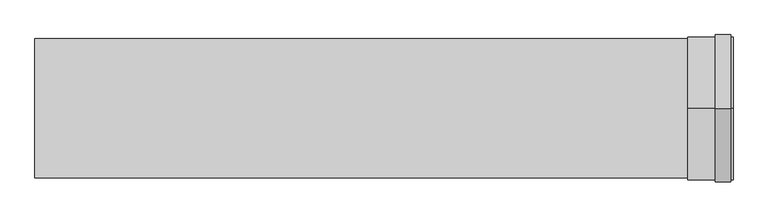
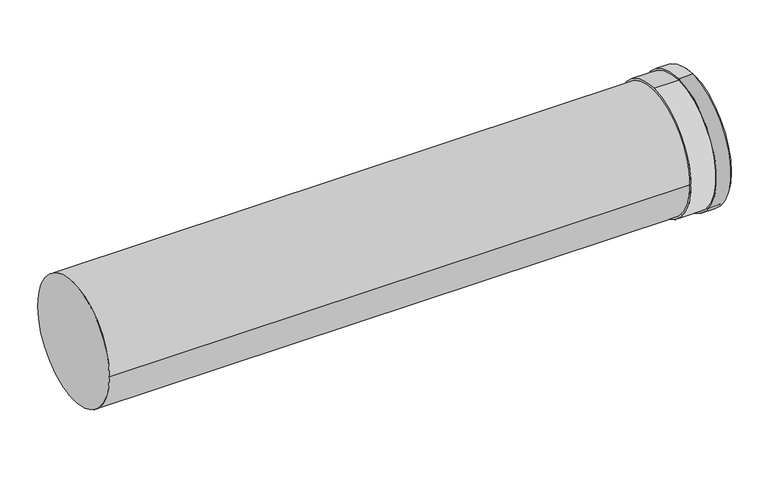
"""IFC4 building model written with IfcOpenShell, lengths in millimetres: duct fitting geometry, RSFen_DUF_UN_Twinline Extension_M&G : ø130-150-200."""

from ifc_helpers import new_model, si_unit, point, frame, origin, origin_2d, place, context, project, spatial, polyline, circle_curve, trimmed, segment, composite_curve, outline, extrude, source, transform, mapped, element, save
from ifc_brep_helpers import plane_surface, cylinder_surface, revolved_surface, advanced_brep


def duct_fitting_6e9e7a38(model_context):
    return source(origin(), model_context, "Body", "SolidModel", [
        extrude(outline(composite_curve([segment(trimmed(circle_curve(origin_2d(), 106.0), [point((0.0, 106.0))], [point((0.0, -106.0))], False, "CARTESIAN"), True, "CONTINUOUS"), segment(trimmed(circle_curve(origin_2d(), 106.0), [point((0.0, -106.0))], [point((0.0, 106.0))], False, "CARTESIAN"), True, "CONTINUOUS")], self_intersect=False), holes=[composite_curve([segment(trimmed(circle_curve(origin_2d(), 103.0), [point((0.0, -103.0))], [point((0.0, 103.0))], True, "CARTESIAN"), True, "CONTINUOUS"), segment(trimmed(circle_curve(origin_2d(), 103.0), [point((0.0, 103.0))], [point((0.0, -103.0))], True, "CARTESIAN"), True, "CONTINUOUS")], self_intersect=False)]), frame((974.5, 0.0, 0.0), z_axis=(1.0, 0.0, 0.0), x_axis=(0.0, 1.0, 0.0)), (0.0, 0.0, 1.0), 22.5),
        advanced_brep(
        [(1000.0, 0.0, -103.0), (1000.0, 0.0, 103.0), (1000.0, 0.0, 99.0), (1000.0, 0.0, -99.0), (935.0, 0.0, -103.0), (935.0, 0.0, 103.0), (940.0, 0.0, -99.0), (940.0, 0.0, 99.0)],
        [
            (0, 1, circle_curve(frame((1000.0, 0.0, 0.0), z_axis=(1.0, 0.0, 0.0), x_axis=(0.0, 0.0, 1.0)), 103.0)),
            (1, 0, circle_curve(frame((1000.0, 0.0, 0.0), z_axis=(1.0, 0.0, 0.0), x_axis=(0.0, 0.0, 1.0)), 103.0)),
            (2, 3, circle_curve(frame((1000.0, 0.0, 0.0), z_axis=(-1.0, 0.0, 0.0), x_axis=(0.0, 0.0, 1.0)), 99.0)),
            (3, 2, circle_curve(frame((1000.0, 0.0, 0.0), z_axis=(-1.0, 0.0, 0.0), x_axis=(0.0, 0.0, 1.0)), 99.0)),
            (4, 5, circle_curve(frame((935.0, 0.0, 0.0), z_axis=(-1.0, 0.0, 0.0), x_axis=(0.0, 0.0, 1.0)), 103.0)),
            (5, 4, circle_curve(frame((935.0, 0.0, 0.0), z_axis=(-1.0, 0.0, 0.0), x_axis=(0.0, 0.0, 1.0)), 103.0)),
            (1, 5),
            (4, 0),
            (6, 7, circle_curve(frame((940.0, 0.0, 0.0), z_axis=(1.0, 0.0, 0.0), x_axis=(0.0, 0.0, 1.0)), 99.0)),
            (7, 6, circle_curve(frame((940.0, 0.0, 0.0), z_axis=(1.0, 0.0, 0.0), x_axis=(0.0, 0.0, 1.0)), 99.0)),
            (7, 2),
            (3, 6),
        ],
        [
            plane_surface(frame((1000.0, 0.0, 103.0), z_axis=(1.0, 0.0, 0.0), x_axis=(0.0, 1.0, 0.0))),
            plane_surface(frame((935.0, 0.0, 103.0), z_axis=(-1.0, 0.0, 0.0), x_axis=(0.0, -1.0, 0.0))),
            cylinder_surface(frame((935.0, 0.0, 0.0), z_axis=(1.0, 0.0, 0.0), x_axis=(0.0, 0.0, 1.0)), 103.0),
            plane_surface(frame((940.0, 0.0, 99.0), z_axis=(1.0, 0.0, 0.0), x_axis=(0.0, -1.0, 0.0))),
            revolved_surface(polyline([(1000.0, 0.0, 99.0), (940.0, 0.0, 99.0)]), (940.0, 0.0, 0.0), (1.0, 0.0, 0.0)),
        ],
        [
            (0, [[1, 2], [3, 4]]),
            (1, [[5, 6]]),
            (2, [[7, -5, 8, -2]]),
            (2, [[-8, -6, -7, -1]]),
            (3, [[9, 10]]),
            (4, [[11, -4, 12, -10]]),
            (4, [[-12, -3, -11, -9]]),
        ],
    ),
        extrude(outline(composite_curve([segment(trimmed(circle_curve(origin_2d(), 100.0), [point((-100.0, 0.0))], [point((100.0, 0.0))], False, "CARTESIAN"), True, "CONTINUOUS"), segment(trimmed(circle_curve(origin_2d(), 100.0), [point((100.0, 0.0))], [point((-100.0, 0.0))], False, "CARTESIAN"), True, "CONTINUOUS")], self_intersect=False)), frame((-2.39e-05, 0.0, 0.0), z_axis=(1.0, 0.0, 0.0), x_axis=(0.0, 1.0, 0.0)), (0.0, 0.0, 1.0), 940.0),
    ])


if __name__ == "__main__":
    model = new_model("IFC4")
    model_context = context("Model", 3, world=origin())
    ifc_project = project(units=[si_unit("LENGTHUNIT", "METRE", prefix="MILLI")], contexts=[model_context])
    site = spatial("IfcSite", under=ifc_project)
    building = spatial("IfcBuilding", under=site)
    placement = place(None, origin())
    duct_fitting_shape = duct_fitting_6e9e7a38(model_context)
    element("IfcDuctFitting", 1, ObjectType="RSFen_DUF_UN_Twinline Extension_M&G : ø130-150-200", at=placement, inside=building, context=model_context, shape_type="MappedRepresentation", body=[
        mapped(duct_fitting_shape, transform((0.0, 0.0, 0.0), x_axis=(1.0, 0.0, 0.0), y_axis=(0.0, 1.0, 0.0), z_axis=(0.0, 0.0, 1.0))),
    ])
    save(model, "model.ifc")
